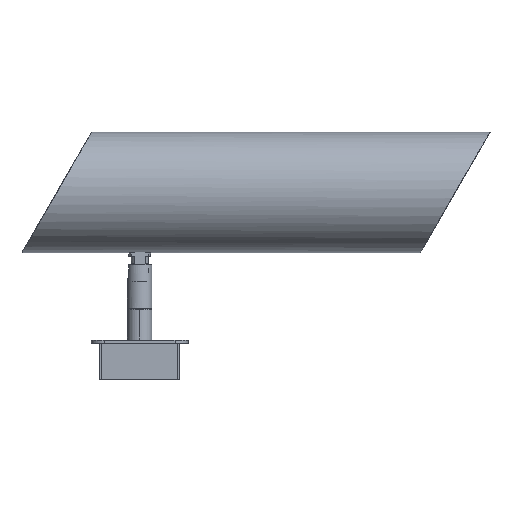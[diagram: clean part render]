
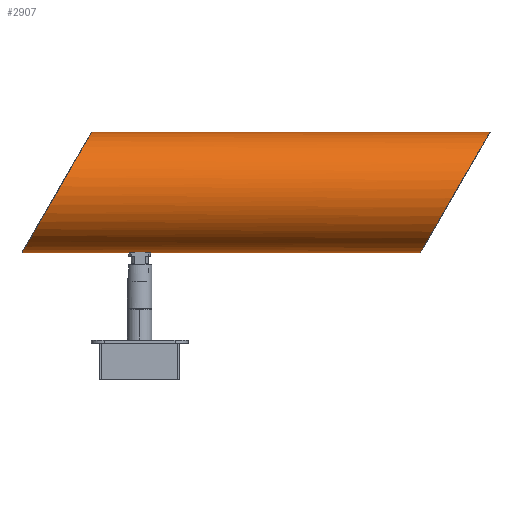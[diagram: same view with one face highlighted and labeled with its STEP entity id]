
A CAD part, left-side view. The second image highlights one B-rep face of the part: STEP entity #2907.
In plain terms, the highlighted cylindrical face has radius 28 mm (diameter 56 mm), a partial arc.
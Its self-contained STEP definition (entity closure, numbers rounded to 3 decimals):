
#317=FACE_OUTER_BOUND('',#501,.T.);
#501=EDGE_LOOP('',(#1991,#1992,#1993,#1994));
#706=ELLIPSE('',#3109,32.332,28.);
#707=ELLIPSE('',#3110,32.332,28.);
#736=LINE('',#4317,#1003);
#737=LINE('',#4321,#1004);
#1003=VECTOR('',#3431,304.8);
#1004=VECTOR('',#3434,304.8);
#1272=VERTEX_POINT('',#4315);
#1273=VERTEX_POINT('',#4316);
#1274=VERTEX_POINT('',#4318);
#1275=VERTEX_POINT('',#4320);
#1552=EDGE_CURVE('',#1272,#1273,#736,.T.);
#1553=EDGE_CURVE('',#1274,#1272,#706,.T.);
#1554=EDGE_CURVE('',#1275,#1274,#737,.T.);
#1555=EDGE_CURVE('',#1273,#1275,#707,.T.);
#1991=ORIENTED_EDGE('',*,*,#1552,.F.);
#1992=ORIENTED_EDGE('',*,*,#1553,.F.);
#1993=ORIENTED_EDGE('',*,*,#1554,.F.);
#1994=ORIENTED_EDGE('',*,*,#1555,.F.);
#2835=CYLINDRICAL_SURFACE('',#3108,28.);
#2907=ADVANCED_FACE('',(#317),#2835,.T.);
#3108=AXIS2_PLACEMENT_3D('',#4314,#3429,#3430);
#3109=AXIS2_PLACEMENT_3D('',#4319,#3432,#3433);
#3110=AXIS2_PLACEMENT_3D('',#4322,#3435,#3436);
#3429=DIRECTION('center_axis',(-1.,0.,0.));
#3430=DIRECTION('ref_axis',(0.,0.,1.));
#3431=DIRECTION('',(1.,0.,0.));
#3432=DIRECTION('center_axis',(-0.866,0.,0.5));
#3433=DIRECTION('ref_axis',(0.5,0.,0.866));
#3434=DIRECTION('',(-1.,0.,0.));
#3435=DIRECTION('center_axis',(0.866,0.,-0.5));
#3436=DIRECTION('ref_axis',(0.5,0.,0.866));
#4314=CARTESIAN_POINT('Origin',(1411.604,-62.5,87.068));
#4315=CARTESIAN_POINT('',(-22.277,-62.5,115.068));
#4316=CARTESIAN_POINT('',(162.723,-62.5,115.068));
#4317=CARTESIAN_POINT('',(-22.277,-62.5,115.068));
#4318=CARTESIAN_POINT('',(-54.609,-62.5,59.068));
#4319=CARTESIAN_POINT('Origin',(-38.443,-62.5,87.068));
#4320=CARTESIAN_POINT('',(130.391,-62.5,59.068));
#4321=CARTESIAN_POINT('',(130.391,-62.5,59.068));
#4322=CARTESIAN_POINT('Origin',(146.557,-62.5,87.068));
